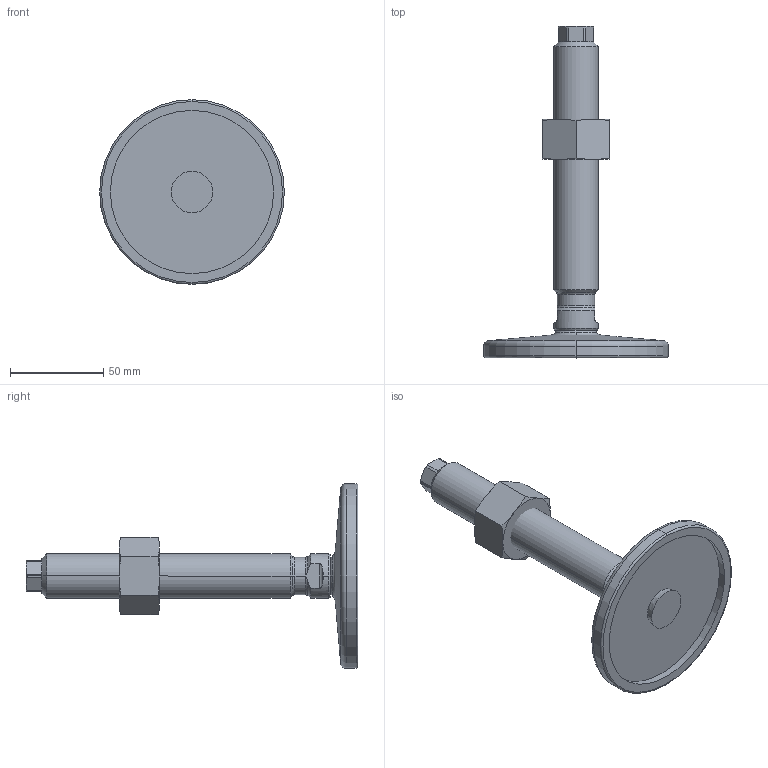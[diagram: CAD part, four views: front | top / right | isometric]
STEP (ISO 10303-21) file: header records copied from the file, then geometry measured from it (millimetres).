
FILE_DESCRIPTION (( 'STEP AP214' ), '1' );
FILE_NAME ('21-100-M24-150-D0-VK.step', '2020-10-02T17:37:03', ( '' ), ( '' ), 'SwSTEP 2.0', 'SolidWorks 2019', '' );
FILE_SCHEMA (( 'AUTOMOTIVE_DESIGN' ));
Length unit declared in the file: millimetre
Products named in the file (4): 21-100-M24-150-D0-VK; WB21_Spindel_V^WB21_V_M24-150; WB21_Fußteller 21^WB21_V_D0-100-R14-B9 (M24); WB4032^WB21_V_M24
Assembly tree (3 placements, depth 2):
  21-100-M24-150-D0-VK
    WB21_Fußteller 21^WB21_V_D0-100-R14-B9 (M24)
    WB21_Spindel_V^WB21_V_M24-150
    WB4032^WB21_V_M24
Bounding box: 99 x 177.9 x 99 mm (x, y, z)
Volume: 141572.9 mm3; surface area: 38284.8 mm2
Topology: 3 solids, 3 shells, 101 faces, 225 edges, 133 vertices
Faces by surface type: cone 33, plane 29, cylinder 25, torus 10, sphere 4
Entity records: 3176 total; most frequent: CARTESIAN_POINT 749, DIRECTION 492, ORIENTED_EDGE 450, EDGE_CURVE 225, AXIS2_PLACEMENT_3D 212, VERTEX_POINT 133, EDGE_LOOP 106, CIRCLE 105
